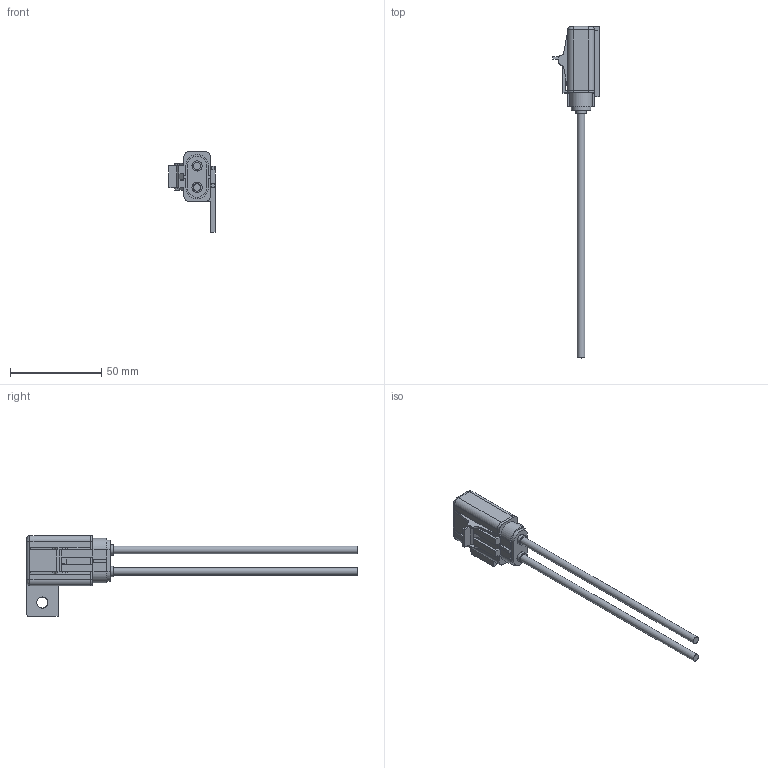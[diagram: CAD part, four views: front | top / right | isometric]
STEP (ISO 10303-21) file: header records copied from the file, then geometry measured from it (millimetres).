
FILE_DESCRIPTION(/* description */ (''),/* implementation_level */ '2;1');
FILE_NAME(/* name */ 'C:\Users\Hani\Desktop\work\LPR-05\LPR-05.stp',/* time_stamp */ '2021-07-24T16:26:55-07:00',/* author */ ('Hani'),/* organization */ (''),/* preprocessor_version */ 'ST-DEVELOPER v17',/* originating_system */ 'Autodesk Inventor 2019',/* authorisation */ '');
FILE_SCHEMA (('AUTOMOTIVE_DESIGN { 1 0 10303 214 3 1 1 }'));
Length unit declared in the file: inch
Products named in the file (3): LPM-05; LPM-05_1; Cover
Assembly tree (2 placements, depth 2):
  LPM-05
    LPM-05_1
    Cover
Bounding box: 25.32 x 181.66 x 44.2 mm (x, y, z)
Volume: 14698.4 mm3; surface area: 14611.7 mm2
Topology: 2 solids, 2 shells, 361 faces, 936 edges, 600 vertices
Faces by surface type: plane 189, bspline 72, cylinder 68, torus 24, cone 8
Full cylindrical faces by diameter (mm): 4.064 x2, 5.588 x1, 5.639 x1, 6.096 x1
Entity records: 11806 total; most frequent: CARTESIAN_POINT 3057, ORIENTED_EDGE 1872, DIRECTION 1569, EDGE_CURVE 936, LINE 617, VECTOR 617, VERTEX_POINT 600, AXIS2_PLACEMENT_3D 476
